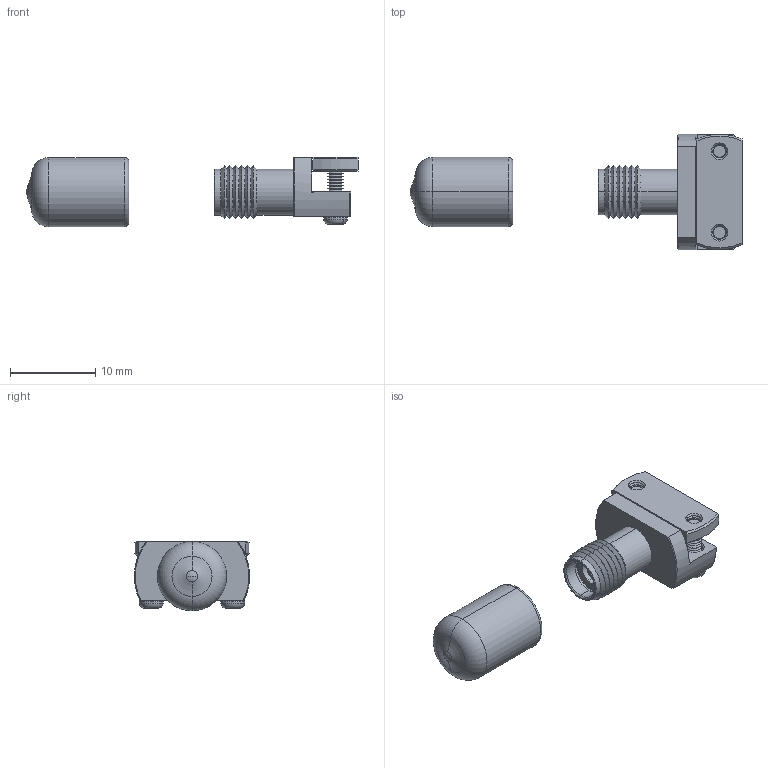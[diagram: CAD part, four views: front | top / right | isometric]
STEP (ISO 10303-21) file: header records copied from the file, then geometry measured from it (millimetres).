
FILE_DESCRIPTION (( 'STEP AP203' ), '1' );
FILE_NAME ('61-20017-44070D.STEP', '2019-12-11T00:41:09', ( '' ), ( '' ), 'SwSTEP 2.0', 'SolidWorks 2016', '' );
FILE_SCHEMA (( 'CONFIG_CONTROL_DESIGN' ));
Length unit declared in the file: millimetre
Products named in the file (19): 110-0012-440000B; 61-20017-44071D; 103-1873-226080A; 101-2423-440000A; 101-2198-440000C; 101-2199-440070B; 108-0063-900000B; 102-1416-700000A; 61-20017-44070D; 102-1161-700000C
Assembly tree (10 placements, depth 3):
  110-0012-440000B
  103-1873-226080A
  110-0012-440000B
  101-2423-440000A
  101-2198-440000C
Bounding box: 38.91 x 13.5 x 8.15 mm (x, y, z)
Volume: 853.2 mm3; surface area: 1835.6 mm2
Topology: 9 solids, 9 shells, 512 faces, 1171 edges, 694 vertices
Faces by surface type: cone 264, cylinder 104, plane 98, torus 26, bspline 16, sphere 4
Entity records: 13720 total; most frequent: CARTESIAN_POINT 2429, DIRECTION 2184, ORIENTED_EDGE 1898, EDGE_CURVE 949, AXIS2_PLACEMENT_3D 901, VERTEX_POINT 570, CIRCLE 481, EDGE_LOOP 457
